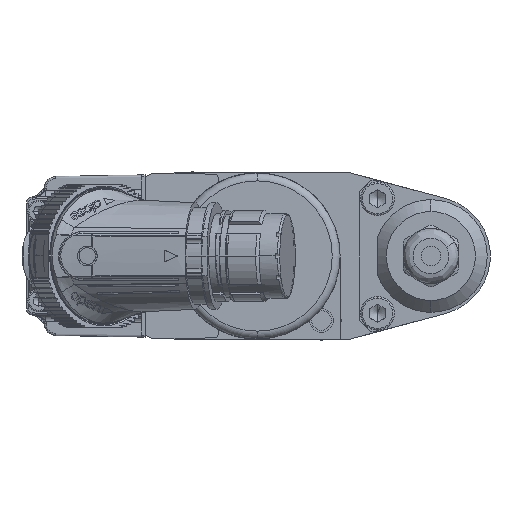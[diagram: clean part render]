
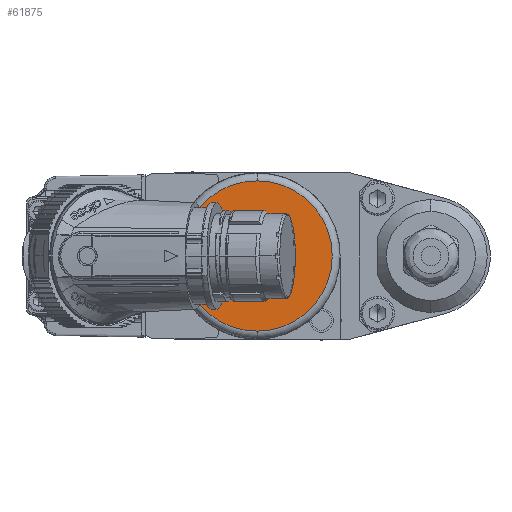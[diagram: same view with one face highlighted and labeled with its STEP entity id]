
A CAD part, left-side view. The second image highlights one B-rep face of the part: STEP entity #61875.
In plain terms, the highlighted planar face has unit normal (-1, 0, 0).
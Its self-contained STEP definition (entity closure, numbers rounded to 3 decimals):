
#1038 = EDGE_CURVE ( 'NONE', #87808, #112570, #2413, .T. ) ;
#1069 = AXIS2_PLACEMENT_3D ( 'NONE', #70954, #121712, #61490 ) ;
#2413 = CIRCLE ( 'NONE', #62332, 19. ) ;
#19916 = EDGE_CURVE ( 'NONE', #112570, #87808, #83853, .T. ) ;
#40067 = FACE_OUTER_BOUND ( 'NONE', #86621, .T. ) ;
#44762 = CARTESIAN_POINT ( 'NONE',  ( -437., 0., 0. ) ) ;
#45493 = DIRECTION ( 'NONE',  ( -1., 0., 0. ) ) ;
#60809 = CARTESIAN_POINT ( 'NONE',  ( -437., 0., 19. ) ) ;
#61490 = DIRECTION ( 'NONE',  ( 0., 0., 1. ) ) ;
#61875 = ADVANCED_FACE ( 'NONE', ( #40067 ), #64308, .T. ) ;
#62332 = AXIS2_PLACEMENT_3D ( 'NONE', #44762, #71337, #152724 ) ;
#64308 = PLANE ( 'NONE',  #131532 ) ;
#70954 = CARTESIAN_POINT ( 'NONE',  ( -437., 0., 0. ) ) ;
#71337 = DIRECTION ( 'NONE',  ( -1., 0., 0. ) ) ;
#73524 = ORIENTED_EDGE ( 'NONE', *, *, #19916, .T. ) ;
#83853 = CIRCLE ( 'NONE', #1069, 19. ) ;
#86621 = EDGE_LOOP ( 'NONE', ( #147292, #73524 ) ) ;
#87808 = VERTEX_POINT ( 'NONE', #60809 ) ;
#90174 = CARTESIAN_POINT ( 'NONE',  ( -437., 0., 0. ) ) ;
#99983 = CARTESIAN_POINT ( 'NONE',  ( -437., 0., -19. ) ) ;
#112570 = VERTEX_POINT ( 'NONE', #99983 ) ;
#121712 = DIRECTION ( 'NONE',  ( -1., 0., 0. ) ) ;
#131532 = AXIS2_PLACEMENT_3D ( 'NONE', #90174, #45493, #150414 ) ;
#147292 = ORIENTED_EDGE ( 'NONE', *, *, #1038, .T. ) ;
#150414 = DIRECTION ( 'NONE',  ( 0., 0., 1. ) ) ;
#152724 = DIRECTION ( 'NONE',  ( 0., 0., 1. ) ) ;
